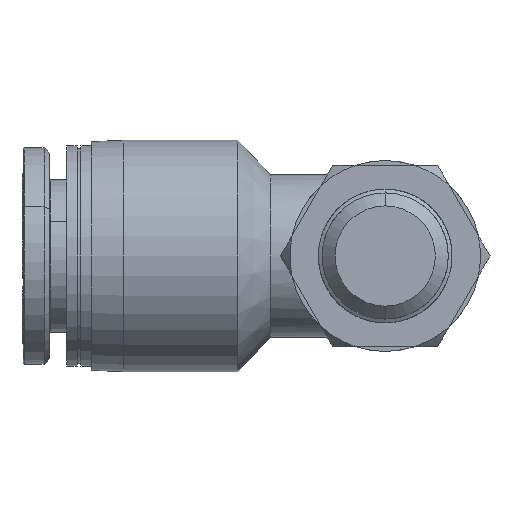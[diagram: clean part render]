
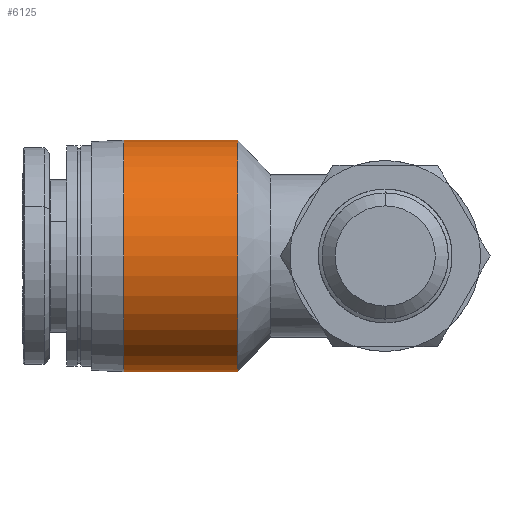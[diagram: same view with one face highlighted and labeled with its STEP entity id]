
A CAD part, front view. The second image highlights one B-rep face of the part: STEP entity #6125.
In plain terms, the highlighted cylindrical face has radius 8.926 mm (diameter 17.852 mm), a partial arc.
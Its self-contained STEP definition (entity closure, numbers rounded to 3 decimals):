
#476 = CIRCLE ( 'NONE', #6108, 8.926 ) ;
#568 = DIRECTION ( 'NONE',  ( -1., 0., 0. ) ) ;
#591 = CARTESIAN_POINT ( 'NONE',  ( -4.4, 0., 0. ) ) ;
#924 = ORIENTED_EDGE ( 'NONE', *, *, #7332, .F. ) ;
#1000 = FACE_OUTER_BOUND ( 'NONE', #7015, .T. ) ;
#1507 = EDGE_CURVE ( 'NONE', #8127, #3343, #3912, .T. ) ;
#1711 = EDGE_CURVE ( 'NONE', #3600, #3343, #8647, .T. ) ;
#2002 = CARTESIAN_POINT ( 'NONE',  ( -4.4, 0., 8.926 ) ) ;
#2518 = DIRECTION ( 'NONE',  ( -1., 0., 0. ) ) ;
#3003 = CYLINDRICAL_SURFACE ( 'NONE', #6934, 8.926 ) ;
#3339 = CARTESIAN_POINT ( 'NONE',  ( 0., 0., 8.926 ) ) ;
#3343 = VERTEX_POINT ( 'NONE', #3339 ) ;
#3441 = ORIENTED_EDGE ( 'NONE', *, *, #1507, .F. ) ;
#3600 = VERTEX_POINT ( 'NONE', #4295 ) ;
#3860 = AXIS2_PLACEMENT_3D ( 'NONE', #7281, #2518, #4598 ) ;
#3912 = CIRCLE ( 'NONE', #3860, 8.926 ) ;
#4054 = DIRECTION ( 'NONE',  ( -1., 0., 0. ) ) ;
#4295 = CARTESIAN_POINT ( 'NONE',  ( 8.8, 0., 8.926 ) ) ;
#4598 = DIRECTION ( 'NONE',  ( 0., 0., 1. ) ) ;
#4758 = VERTEX_POINT ( 'NONE', #7349 ) ;
#5431 = DIRECTION ( 'NONE',  ( -1., 0., 0. ) ) ;
#5961 = CARTESIAN_POINT ( 'NONE',  ( 0., 0., -8.926 ) ) ;
#6042 = DIRECTION ( 'NONE',  ( 0., 0., 1. ) ) ;
#6108 = AXIS2_PLACEMENT_3D ( 'NONE', #6979, #6280, #8212 ) ;
#6125 = ADVANCED_FACE ( 'NONE', ( #1000 ), #3003, .T. ) ;
#6280 = DIRECTION ( 'NONE',  ( -1., 0., 0. ) ) ;
#6783 = VECTOR ( 'NONE', #4054, 1000. ) ;
#6934 = AXIS2_PLACEMENT_3D ( 'NONE', #591, #5431, #6042 ) ;
#6979 = CARTESIAN_POINT ( 'NONE',  ( 8.8, 0., 0. ) ) ;
#7015 = EDGE_LOOP ( 'NONE', ( #924, #8372, #8763, #3441 ) ) ;
#7281 = CARTESIAN_POINT ( 'NONE',  ( 0., 0., 0. ) ) ;
#7332 = EDGE_CURVE ( 'NONE', #4758, #8127, #8567, .T. ) ;
#7349 = CARTESIAN_POINT ( 'NONE',  ( 8.8, 0., -8.926 ) ) ;
#7411 = CARTESIAN_POINT ( 'NONE',  ( -4.4, 0., -8.926 ) ) ;
#8126 = VECTOR ( 'NONE', #568, 1000. ) ;
#8127 = VERTEX_POINT ( 'NONE', #5961 ) ;
#8212 = DIRECTION ( 'NONE',  ( 0., 0., 1. ) ) ;
#8372 = ORIENTED_EDGE ( 'NONE', *, *, #8764, .T. ) ;
#8567 = LINE ( 'NONE', #7411, #6783 ) ;
#8647 = LINE ( 'NONE', #2002, #8126 ) ;
#8763 = ORIENTED_EDGE ( 'NONE', *, *, #1711, .T. ) ;
#8764 = EDGE_CURVE ( 'NONE', #4758, #3600, #476, .T. ) ;
